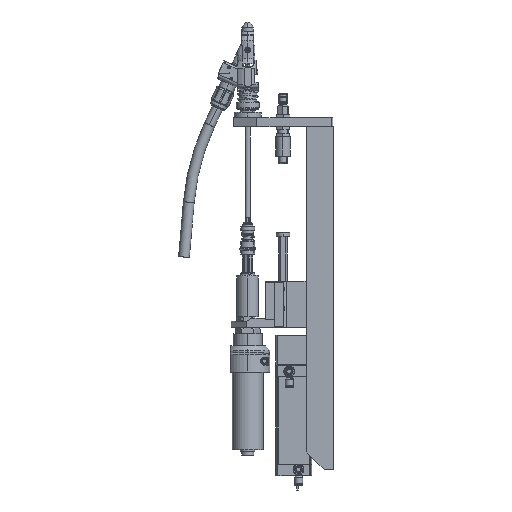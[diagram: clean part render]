
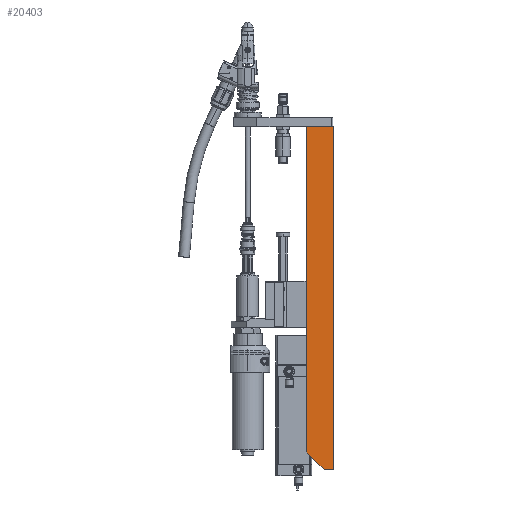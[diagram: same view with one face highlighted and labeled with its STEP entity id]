
A CAD part, left-side view. The second image highlights one B-rep face of the part: STEP entity #20403.
In plain terms, the highlighted planar face has unit normal (-1, 0, 0).
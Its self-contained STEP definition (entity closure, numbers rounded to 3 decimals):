
#1995 = EDGE_CURVE ( 'NONE', #22566, #13366, #52148, .T. ) ;
#3414 = DIRECTION ( 'NONE',  ( 0., 0., 1. ) ) ;
#5390 = CARTESIAN_POINT ( 'NONE',  ( -29., 35., -223. ) ) ;
#11292 = LINE ( 'NONE', #17649, #54598 ) ;
#13244 = DIRECTION ( 'NONE',  ( 0., -1., 0. ) ) ;
#13366 = VERTEX_POINT ( 'NONE', #74515 ) ;
#14288 = CARTESIAN_POINT ( 'NONE',  ( -29., 0., 223. ) ) ;
#14696 = DIRECTION ( 'NONE',  ( 0., 0., -1. ) ) ;
#15051 = VECTOR ( 'NONE', #65148, 1000. ) ;
#17649 = CARTESIAN_POINT ( 'NONE',  ( -29., 35., 223. ) ) ;
#20403 = ADVANCED_FACE ( 'NONE', ( #43220 ), #21581, .F. ) ;
#21581 = PLANE ( 'NONE',  #46236 ) ;
#22128 = DIRECTION ( 'NONE',  ( 0., 0., 1. ) ) ;
#22566 = VERTEX_POINT ( 'NONE', #34295 ) ;
#23773 = ORIENTED_EDGE ( 'NONE', *, *, #49596, .T. ) ;
#24628 = EDGE_CURVE ( 'NONE', #44432, #51482, #27170, .T. ) ;
#25617 = VECTOR ( 'NONE', #22128, 1000. ) ;
#26694 = DIRECTION ( 'NONE',  ( 0., -0.707, -0.707 ) ) ;
#27170 = LINE ( 'NONE', #57199, #59007 ) ;
#29787 = ORIENTED_EDGE ( 'NONE', *, *, #1995, .T. ) ;
#31036 = CARTESIAN_POINT ( 'NONE',  ( -29., 35., 223. ) ) ;
#31139 = EDGE_CURVE ( 'NONE', #53960, #13366, #86444, .T. ) ;
#31586 = ORIENTED_EDGE ( 'NONE', *, *, #42479, .F. ) ;
#34295 = CARTESIAN_POINT ( 'NONE',  ( -29., 0., -223. ) ) ;
#36912 = CARTESIAN_POINT ( 'NONE',  ( -29., 12., -223. ) ) ;
#42479 = EDGE_CURVE ( 'NONE', #44432, #53960, #11292, .T. ) ;
#43220 = FACE_OUTER_BOUND ( 'NONE', #54217, .T. ) ;
#44432 = VERTEX_POINT ( 'NONE', #91104 ) ;
#46236 = AXIS2_PLACEMENT_3D ( 'NONE', #82103, #58456, #14696 ) ;
#49596 = EDGE_CURVE ( 'NONE', #51482, #22566, #78691, .T. ) ;
#51482 = VERTEX_POINT ( 'NONE', #36912 ) ;
#52148 = LINE ( 'NONE', #14288, #25617 ) ;
#52788 = ORIENTED_EDGE ( 'NONE', *, *, #24628, .T. ) ;
#53960 = VERTEX_POINT ( 'NONE', #31036 ) ;
#54217 = EDGE_LOOP ( 'NONE', ( #31586, #52788, #23773, #29787, #76330 ) ) ;
#54598 = VECTOR ( 'NONE', #3414, 1000. ) ;
#57199 = CARTESIAN_POINT ( 'NONE',  ( -29., 35., -200. ) ) ;
#58456 = DIRECTION ( 'NONE',  ( 1., 0., 0. ) ) ;
#59007 = VECTOR ( 'NONE', #26694, 1000. ) ;
#64196 = CARTESIAN_POINT ( 'NONE',  ( -29., 35., 223. ) ) ;
#65029 = VECTOR ( 'NONE', #13244, 1000. ) ;
#65148 = DIRECTION ( 'NONE',  ( 0., -1., 0. ) ) ;
#74515 = CARTESIAN_POINT ( 'NONE',  ( -29., 0., 223. ) ) ;
#76330 = ORIENTED_EDGE ( 'NONE', *, *, #31139, .F. ) ;
#78691 = LINE ( 'NONE', #5390, #65029 ) ;
#82103 = CARTESIAN_POINT ( 'NONE',  ( -29., 35., 223. ) ) ;
#86444 = LINE ( 'NONE', #64196, #15051 ) ;
#91104 = CARTESIAN_POINT ( 'NONE',  ( -29., 35., -200. ) ) ;
